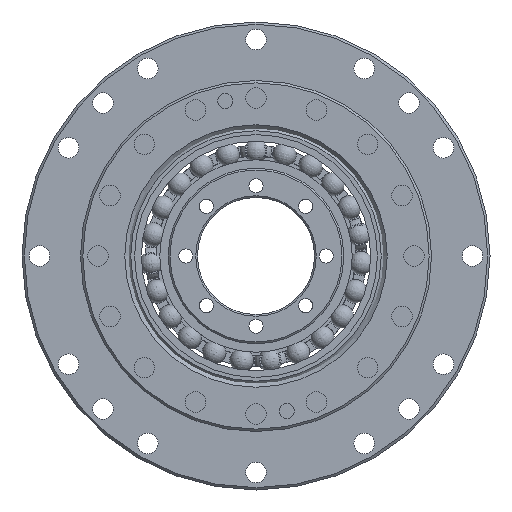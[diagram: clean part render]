
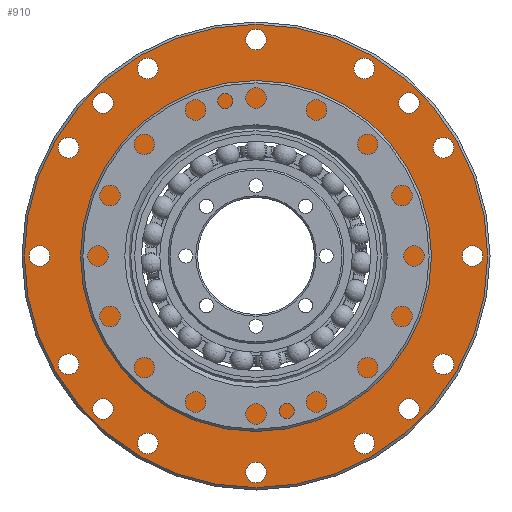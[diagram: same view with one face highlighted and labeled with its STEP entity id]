
A CAD part, left-side view. The second image highlights one B-rep face of the part: STEP entity #910.
In plain terms, the highlighted planar face has unit normal (-1, 0, 0).
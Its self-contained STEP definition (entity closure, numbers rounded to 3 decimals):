
#842=PLANE('',#4519);
#910=ADVANCED_FACE('',(#1274,#1275,#1276,#1277,#1278,#1279,#1280,#1281,
#1282,#1283,#1284,#1285,#1286,#1287,#1288,#1289,#1290,#1291),#842,.T.);
#1274=FACE_BOUND('',#1587,.T.);
#1275=FACE_BOUND('',#1588,.T.);
#1276=FACE_BOUND('',#1589,.T.);
#1277=FACE_BOUND('',#1590,.T.);
#1278=FACE_BOUND('',#1591,.T.);
#1279=FACE_BOUND('',#1592,.T.);
#1280=FACE_BOUND('',#1593,.T.);
#1281=FACE_BOUND('',#1594,.T.);
#1282=FACE_BOUND('',#1595,.T.);
#1283=FACE_BOUND('',#1596,.T.);
#1284=FACE_BOUND('',#1597,.T.);
#1285=FACE_BOUND('',#1598,.T.);
#1286=FACE_BOUND('',#1599,.T.);
#1287=FACE_BOUND('',#1600,.T.);
#1288=FACE_BOUND('',#1601,.T.);
#1289=FACE_BOUND('',#1602,.T.);
#1290=FACE_BOUND('',#1603,.T.);
#1291=FACE_BOUND('',#1604,.T.);
#1587=EDGE_LOOP('',(#2015));
#1588=EDGE_LOOP('',(#2016));
#1589=EDGE_LOOP('',(#2017));
#1590=EDGE_LOOP('',(#2018));
#1591=EDGE_LOOP('',(#2019));
#1592=EDGE_LOOP('',(#2020));
#1593=EDGE_LOOP('',(#2021));
#1594=EDGE_LOOP('',(#2022));
#1595=EDGE_LOOP('',(#2023));
#1596=EDGE_LOOP('',(#2024));
#1597=EDGE_LOOP('',(#2025));
#1598=EDGE_LOOP('',(#2026));
#1599=EDGE_LOOP('',(#2027));
#1600=EDGE_LOOP('',(#2028));
#1601=EDGE_LOOP('',(#2029));
#1602=EDGE_LOOP('',(#2030));
#1603=EDGE_LOOP('',(#2031));
#1604=EDGE_LOOP('',(#2032));
#2015=ORIENTED_EDGE('',*,*,#3574,.T.);
#2016=ORIENTED_EDGE('',*,*,#3575,.T.);
#2017=ORIENTED_EDGE('',*,*,#3576,.T.);
#2018=ORIENTED_EDGE('',*,*,#3577,.T.);
#2019=ORIENTED_EDGE('',*,*,#3578,.T.);
#2020=ORIENTED_EDGE('',*,*,#3579,.T.);
#2021=ORIENTED_EDGE('',*,*,#3580,.T.);
#2022=ORIENTED_EDGE('',*,*,#3581,.T.);
#2023=ORIENTED_EDGE('',*,*,#3582,.T.);
#2024=ORIENTED_EDGE('',*,*,#3583,.T.);
#2025=ORIENTED_EDGE('',*,*,#3584,.T.);
#2026=ORIENTED_EDGE('',*,*,#3585,.T.);
#2027=ORIENTED_EDGE('',*,*,#3586,.T.);
#2028=ORIENTED_EDGE('',*,*,#3587,.T.);
#2029=ORIENTED_EDGE('',*,*,#3588,.T.);
#2030=ORIENTED_EDGE('',*,*,#3589,.T.);
#2031=ORIENTED_EDGE('',*,*,#3590,.T.);
#2032=ORIENTED_EDGE('',*,*,#3591,.T.);
#3131=VERTEX_POINT('',#6221);
#3132=VERTEX_POINT('',#6223);
#3133=VERTEX_POINT('',#6225);
#3134=VERTEX_POINT('',#6227);
#3135=VERTEX_POINT('',#6229);
#3136=VERTEX_POINT('',#6231);
#3137=VERTEX_POINT('',#6233);
#3138=VERTEX_POINT('',#6235);
#3139=VERTEX_POINT('',#6237);
#3140=VERTEX_POINT('',#6239);
#3141=VERTEX_POINT('',#6241);
#3142=VERTEX_POINT('',#6243);
#3143=VERTEX_POINT('',#6245);
#3144=VERTEX_POINT('',#6247);
#3145=VERTEX_POINT('',#6249);
#3146=VERTEX_POINT('',#6251);
#3147=VERTEX_POINT('',#6253);
#3148=VERTEX_POINT('',#6255);
#3574=EDGE_CURVE('',#3131,#3131,#4215,.T.);
#3575=EDGE_CURVE('',#3132,#3132,#4216,.T.);
#3576=EDGE_CURVE('',#3133,#3133,#4217,.T.);
#3577=EDGE_CURVE('',#3134,#3134,#4218,.T.);
#3578=EDGE_CURVE('',#3135,#3135,#4219,.T.);
#3579=EDGE_CURVE('',#3136,#3136,#4220,.T.);
#3580=EDGE_CURVE('',#3137,#3137,#4221,.T.);
#3581=EDGE_CURVE('',#3138,#3138,#4222,.T.);
#3582=EDGE_CURVE('',#3139,#3139,#4223,.T.);
#3583=EDGE_CURVE('',#3140,#3140,#4224,.T.);
#3584=EDGE_CURVE('',#3141,#3141,#4225,.T.);
#3585=EDGE_CURVE('',#3142,#3142,#4226,.T.);
#3586=EDGE_CURVE('',#3143,#3143,#4227,.T.);
#3587=EDGE_CURVE('',#3144,#3144,#4228,.T.);
#3588=EDGE_CURVE('',#3145,#3145,#4229,.T.);
#3589=EDGE_CURVE('',#3146,#3146,#4230,.T.);
#3590=EDGE_CURVE('',#3147,#3147,#4231,.T.);
#3591=EDGE_CURVE('',#3148,#3148,#4232,.T.);
#4215=CIRCLE('',#4501,22.15);
#4216=CIRCLE('',#4502,1.75);
#4217=CIRCLE('',#4503,1.75);
#4218=CIRCLE('',#4504,1.75);
#4219=CIRCLE('',#4505,1.75);
#4220=CIRCLE('',#4506,1.75);
#4221=CIRCLE('',#4507,1.75);
#4222=CIRCLE('',#4508,1.75);
#4223=CIRCLE('',#4509,1.75);
#4224=CIRCLE('',#4510,1.75);
#4225=CIRCLE('',#4511,1.75);
#4226=CIRCLE('',#4512,1.75);
#4227=CIRCLE('',#4513,1.75);
#4228=CIRCLE('',#4514,1.75);
#4229=CIRCLE('',#4515,1.75);
#4230=CIRCLE('',#4516,1.75);
#4231=CIRCLE('',#4517,1.75);
#4232=CIRCLE('',#4518,39.6);
#4501=AXIS2_PLACEMENT_3D('',#6220,#5056,#5057);
#4502=AXIS2_PLACEMENT_3D('',#6222,#5058,#5059);
#4503=AXIS2_PLACEMENT_3D('',#6224,#5060,#5061);
#4504=AXIS2_PLACEMENT_3D('',#6226,#5062,#5063);
#4505=AXIS2_PLACEMENT_3D('',#6228,#5064,#5065);
#4506=AXIS2_PLACEMENT_3D('',#6230,#5066,#5067);
#4507=AXIS2_PLACEMENT_3D('',#6232,#5068,#5069);
#4508=AXIS2_PLACEMENT_3D('',#6234,#5070,#5071);
#4509=AXIS2_PLACEMENT_3D('',#6236,#5072,#5073);
#4510=AXIS2_PLACEMENT_3D('',#6238,#5074,#5075);
#4511=AXIS2_PLACEMENT_3D('',#6240,#5076,#5077);
#4512=AXIS2_PLACEMENT_3D('',#6242,#5078,#5079);
#4513=AXIS2_PLACEMENT_3D('',#6244,#5080,#5081);
#4514=AXIS2_PLACEMENT_3D('',#6246,#5082,#5083);
#4515=AXIS2_PLACEMENT_3D('',#6248,#5084,#5085);
#4516=AXIS2_PLACEMENT_3D('',#6250,#5086,#5087);
#4517=AXIS2_PLACEMENT_3D('',#6252,#5088,#5089);
#4518=AXIS2_PLACEMENT_3D('',#6254,#5090,#5091);
#4519=AXIS2_PLACEMENT_3D('',#6256,#5092,#5093);
#5056=DIRECTION('',(1.,0.,0.));
#5057=DIRECTION('',(0.,0.,1.));
#5058=DIRECTION('',(1.,0.,0.));
#5059=DIRECTION('',(0.,0.,-1.));
#5060=DIRECTION('',(1.,0.,0.));
#5061=DIRECTION('',(0.,0.,-1.));
#5062=DIRECTION('',(1.,0.,0.));
#5063=DIRECTION('',(0.,0.,-1.));
#5064=DIRECTION('',(1.,0.,0.));
#5065=DIRECTION('',(0.,0.,-1.));
#5066=DIRECTION('',(1.,0.,0.));
#5067=DIRECTION('',(0.,0.,-1.));
#5068=DIRECTION('',(1.,0.,0.));
#5069=DIRECTION('',(0.,0.,-1.));
#5070=DIRECTION('',(1.,0.,0.));
#5071=DIRECTION('',(0.,0.,-1.));
#5072=DIRECTION('',(1.,0.,0.));
#5073=DIRECTION('',(0.,0.,-1.));
#5074=DIRECTION('',(1.,0.,0.));
#5075=DIRECTION('',(0.,0.,-1.));
#5076=DIRECTION('',(1.,0.,0.));
#5077=DIRECTION('',(0.,0.,-1.));
#5078=DIRECTION('',(1.,0.,0.));
#5079=DIRECTION('',(0.,0.,-1.));
#5080=DIRECTION('',(1.,0.,0.));
#5081=DIRECTION('',(0.,0.,-1.));
#5082=DIRECTION('',(1.,0.,0.));
#5083=DIRECTION('',(0.,0.,-1.));
#5084=DIRECTION('',(1.,0.,0.));
#5085=DIRECTION('',(0.,0.,-1.));
#5086=DIRECTION('',(1.,0.,0.));
#5087=DIRECTION('',(0.,0.,-1.));
#5088=DIRECTION('',(1.,0.,0.));
#5089=DIRECTION('',(0.,0.,-1.));
#5090=DIRECTION('',(-1.,0.,0.));
#5091=DIRECTION('',(0.,0.,1.));
#5092=DIRECTION('',(-1.,0.,0.));
#5093=DIRECTION('',(0.,0.,1.));
#6220=CARTESIAN_POINT('',(23.75,0.,0.));
#6221=CARTESIAN_POINT('',(23.75,0.,22.15));
#6222=CARTESIAN_POINT('',(23.75,26.163,-26.163));
#6223=CARTESIAN_POINT('',(23.75,26.163,-27.913));
#6224=CARTESIAN_POINT('',(23.75,26.163,26.163));
#6225=CARTESIAN_POINT('',(23.75,26.163,24.413));
#6226=CARTESIAN_POINT('',(23.75,-26.163,26.163));
#6227=CARTESIAN_POINT('',(23.75,-26.163,24.413));
#6228=CARTESIAN_POINT('',(23.75,-26.163,-26.163));
#6229=CARTESIAN_POINT('',(23.75,-26.163,-27.913));
#6230=CARTESIAN_POINT('',(23.75,-18.5,-32.043));
#6231=CARTESIAN_POINT('',(23.75,-18.5,-33.793));
#6232=CARTESIAN_POINT('',(23.75,-32.043,-18.5));
#6233=CARTESIAN_POINT('',(23.75,-32.043,-20.25));
#6234=CARTESIAN_POINT('',(23.75,-37.,0.));
#6235=CARTESIAN_POINT('',(23.75,-37.,-1.75));
#6236=CARTESIAN_POINT('',(23.75,-32.043,18.5));
#6237=CARTESIAN_POINT('',(23.75,-32.043,16.75));
#6238=CARTESIAN_POINT('',(23.75,-18.5,32.043));
#6239=CARTESIAN_POINT('',(23.75,-18.5,30.293));
#6240=CARTESIAN_POINT('',(23.75,0.,37.));
#6241=CARTESIAN_POINT('',(23.75,0.,35.25));
#6242=CARTESIAN_POINT('',(23.75,18.5,32.043));
#6243=CARTESIAN_POINT('',(23.75,18.5,30.293));
#6244=CARTESIAN_POINT('',(23.75,32.043,18.5));
#6245=CARTESIAN_POINT('',(23.75,32.043,16.75));
#6246=CARTESIAN_POINT('',(23.75,37.,0.));
#6247=CARTESIAN_POINT('',(23.75,37.,-1.75));
#6248=CARTESIAN_POINT('',(23.75,32.043,-18.5));
#6249=CARTESIAN_POINT('',(23.75,32.043,-20.25));
#6250=CARTESIAN_POINT('',(23.75,18.5,-32.043));
#6251=CARTESIAN_POINT('',(23.75,18.5,-33.793));
#6252=CARTESIAN_POINT('',(23.75,0.,-37.));
#6253=CARTESIAN_POINT('',(23.75,0.,-38.75));
#6254=CARTESIAN_POINT('',(23.75,0.,0.));
#6255=CARTESIAN_POINT('',(23.75,0.,39.6));
#6256=CARTESIAN_POINT('',(23.75,40.,0.));
